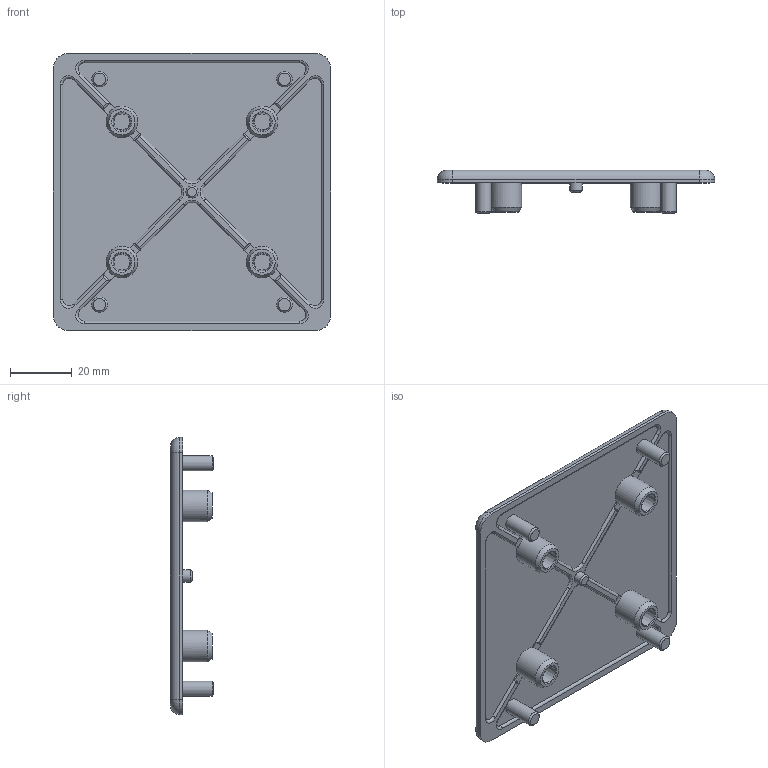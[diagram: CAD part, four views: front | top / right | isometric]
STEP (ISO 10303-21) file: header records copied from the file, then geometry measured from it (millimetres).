
FILE_DESCRIPTION(/* description */ ('STEP AP203'),/* implementation_level */ '2;1');
FILE_NAME(/* name */ '091030S03',/* time_stamp */ '2023-06-28T12:21:34+02:00',/* author */ ('License CC BY-ND 4.0'),/* organization */ ('CADENAS'),/* preprocessor_version */ 'ST-DEVELOPER v19.3',/* originating_system */ 'PARTsolutions',/* authorisation */ ' ');
FILE_SCHEMA (('CONFIG_CONTROL_DESIGN'));
Length unit declared in the file: millimetre
Products named in the file (1): 091030S03
Bounding box: 90 x 14 x 90 mm (x, y, z)
Volume: 29561 mm3; surface area: 19999.1 mm2
Topology: 1 solids, 1 shells, 126 faces, 326 edges, 212 vertices
Faces by surface type: cylinder 37, torus 36, plane 32, cone 21
Full cylindrical faces by diameter (mm): 3.9 x1, 5 x4, 10.2 x4
Entity records: 3776 total; most frequent: CARTESIAN_POINT 813, DIRECTION 632, ORIENTED_EDGE 582, EDGE_CURVE 291, AXIS2_PLACEMENT_3D 278, VERTEX_POINT 203, EDGE_LOOP 162, FACE_BOUND 162
